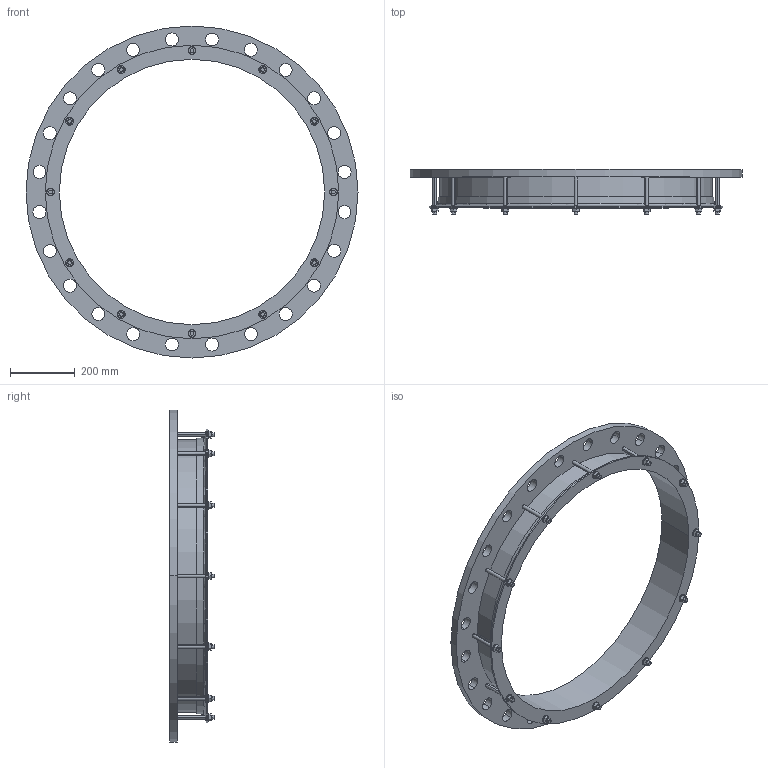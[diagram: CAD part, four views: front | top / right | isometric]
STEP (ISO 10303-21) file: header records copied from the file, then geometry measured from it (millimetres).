
FILE_DESCRIPTION((''),'2;1');
FILE_NAME('816X800PN16','2019-01-16T',('mfairey'),('Glynwed Pipe Systems'),'CREO PARAMETRIC BY PTC INC, 2016130','CREO PARAMETRIC BY PTC INC, 2016130','');
FILE_SCHEMA(('CONFIG_CONTROL_DESIGN'));
Length unit declared in the file: millimetre
Products named in the file (1): 816X800PN16
Bounding box: 1025 x 137.45 x 1025 mm (x, y, z)
Volume: 10063487.5 mm3; surface area: 1445246.2 mm2
Topology: 1 solids, 1 shells, 246 faces, 650 edges, 432 vertices
Faces by surface type: cylinder 128, plane 112, cone 4, torus 2
Entity records: 8584 total; most frequent: CARTESIAN_POINT 2138, DIRECTION 1340, ORIENTED_EDGE 1300, EDGE_CURVE 650, AXIS2_PLACEMENT_3D 496, VERTEX_POINT 432, VECTOR 348, LINE 348
